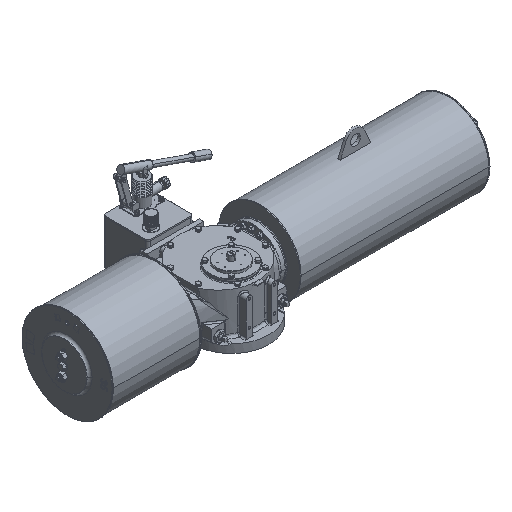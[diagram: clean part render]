
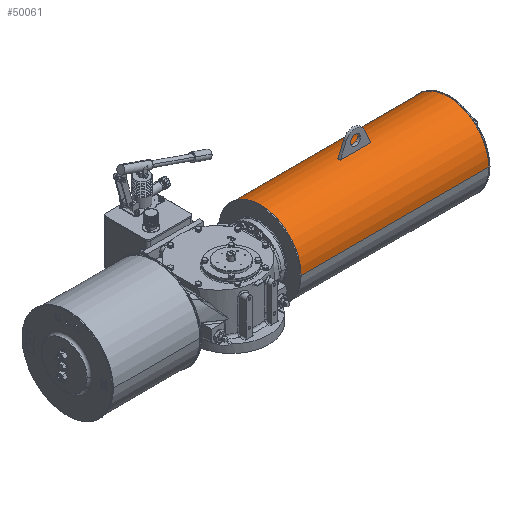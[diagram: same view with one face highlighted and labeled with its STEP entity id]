
A CAD part, isometric view. The second image highlights one B-rep face of the part: STEP entity #50061.
In plain terms, the highlighted cylindrical face has radius 162.5 mm (diameter 325 mm), a partial arc.
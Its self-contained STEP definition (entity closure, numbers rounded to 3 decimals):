
#515 = CARTESIAN_POINT ( 'NONE',  ( 954., 198., 74.5 ) ) ;
#769 = ORIENTED_EDGE ( 'NONE', *, *, #94353, .T. ) ;
#1058 = EDGE_CURVE ( 'NONE', #90639, #19252, #41932, .T. ) ;
#2069 = CARTESIAN_POINT ( 'NONE',  ( 639.5, 35.5, 74.5 ) ) ;
#3094 = EDGE_CURVE ( 'NONE', #50640, #34565, #69077, .T. ) ;
#3404 = AXIS2_PLACEMENT_3D ( 'NONE', #41371, #19302, #71418 ) ;
#4012 = CIRCLE ( 'NONE', #58423, 162.5 ) ;
#6322 = ORIENTED_EDGE ( 'NONE', *, *, #7833, .T. ) ;
#7833 = EDGE_CURVE ( 'NONE', #62151, #16743, #87762, .T. ) ;
#7839 = VERTEX_POINT ( 'NONE', #88245 ) ;
#10258 = EDGE_CURVE ( 'NONE', #59824, #46559, #46613, .T. ) ;
#11075 = DIRECTION ( 'NONE',  ( 0., 1., 0. ) ) ;
#16743 = VERTEX_POINT ( 'NONE', #97563 ) ;
#17167 = ORIENTED_EDGE ( 'NONE', *, *, #1058, .F. ) ;
#17387 = AXIS2_PLACEMENT_3D ( 'NONE', #49637, #26095, #11075 ) ;
#17945 = ORIENTED_EDGE ( 'NONE', *, *, #23870, .T. ) ;
#18646 = DIRECTION ( 'NONE',  ( 0., 1., 0. ) ) ;
#18891 = CARTESIAN_POINT ( 'NONE',  ( 208., 198., 74.5 ) ) ;
#19252 = VERTEX_POINT ( 'NONE', #515 ) ;
#19302 = DIRECTION ( 'NONE',  ( -1., 0., 0. ) ) ;
#20099 = CARTESIAN_POINT ( 'NONE',  ( 208., -127., 74.5 ) ) ;
#21156 = CARTESIAN_POINT ( 'NONE',  ( 519.5, 35.5, 74.5 ) ) ;
#22256 = CARTESIAN_POINT ( 'NONE',  ( 519.5, 35.5, 237. ) ) ;
#22306 = EDGE_CURVE ( 'NONE', #90639, #62151, #91042, .T. ) ;
#22723 = ORIENTED_EDGE ( 'NONE', *, *, #76785, .T. ) ;
#22838 = CARTESIAN_POINT ( 'NONE',  ( 519.5, 40.5, 236.923 ) ) ;
#23472 = DIRECTION ( 'NONE',  ( 1., 0., 0. ) ) ;
#23870 = EDGE_CURVE ( 'NONE', #45073, #59824, #4012, .T. ) ;
#24720 = ORIENTED_EDGE ( 'NONE', *, *, #47454, .F. ) ;
#25074 = EDGE_LOOP ( 'NONE', ( #24720, #17945, #35791, #89507, #40227, #769 ) ) ;
#25333 = CYLINDRICAL_SURFACE ( 'NONE', #63038, 162.5 ) ;
#26095 = DIRECTION ( 'NONE',  ( 1., 0., 0. ) ) ;
#26166 = DIRECTION ( 'NONE',  ( -1., 0., 0. ) ) ;
#32308 = AXIS2_PLACEMENT_3D ( 'NONE', #2069, #63184, #63672 ) ;
#33373 = CARTESIAN_POINT ( 'NONE',  ( 205., -127., 74.5 ) ) ;
#34565 = VERTEX_POINT ( 'NONE', #87651 ) ;
#35791 = ORIENTED_EDGE ( 'NONE', *, *, #10258, .T. ) ;
#40227 = ORIENTED_EDGE ( 'NONE', *, *, #3094, .T. ) ;
#40716 = VECTOR ( 'NONE', #23472, 1000. ) ;
#41371 = CARTESIAN_POINT ( 'NONE',  ( 519.5, 35.5, 74.5 ) ) ;
#41932 = LINE ( 'NONE', #18891, #43208 ) ;
#43208 = VECTOR ( 'NONE', #87522, 1000. ) ;
#43445 = CARTESIAN_POINT ( 'NONE',  ( 208., 30.5, 236.923 ) ) ;
#45049 = CARTESIAN_POINT ( 'NONE',  ( 208., 40.5, 236.923 ) ) ;
#45073 = VERTEX_POINT ( 'NONE', #94369 ) ;
#45171 = DIRECTION ( 'NONE',  ( 0., 1., 0. ) ) ;
#46155 = DIRECTION ( 'NONE',  ( 1., 0., 0. ) ) ;
#46559 = VERTEX_POINT ( 'NONE', #22838 ) ;
#46613 = CIRCLE ( 'NONE', #3404, 162.5 ) ;
#47454 = EDGE_CURVE ( 'NONE', #45073, #7839, #81507, .T. ) ;
#49214 = DIRECTION ( 'NONE',  ( 0., -1., 0. ) ) ;
#49637 = CARTESIAN_POINT ( 'NONE',  ( 205., 35.5, 74.5 ) ) ;
#49680 = DIRECTION ( 'NONE',  ( 1., 0., 0. ) ) ;
#50061 = ADVANCED_FACE ( 'NONE', ( #70895, #63396 ), #25333, .T. ) ;
#50640 = VERTEX_POINT ( 'NONE', #80534 ) ;
#51301 = AXIS2_PLACEMENT_3D ( 'NONE', #89608, #56704, #49214 ) ;
#56209 = CARTESIAN_POINT ( 'NONE',  ( 954., 35.5, 74.5 ) ) ;
#56224 = CIRCLE ( 'NONE', #94641, 162.5 ) ;
#56704 = DIRECTION ( 'NONE',  ( 1., 0., 0. ) ) ;
#57134 = EDGE_LOOP ( 'NONE', ( #84729, #6322, #22723, #17167 ) ) ;
#58423 = AXIS2_PLACEMENT_3D ( 'NONE', #21156, #73764, #74266 ) ;
#59824 = VERTEX_POINT ( 'NONE', #22256 ) ;
#61102 = VECTOR ( 'NONE', #49680, 1000. ) ;
#61542 = LINE ( 'NONE', #45049, #40716 ) ;
#61714 = VECTOR ( 'NONE', #97524, 1000. ) ;
#62151 = VERTEX_POINT ( 'NONE', #33373 ) ;
#63038 = AXIS2_PLACEMENT_3D ( 'NONE', #84207, #46155, #45171 ) ;
#63184 = DIRECTION ( 'NONE',  ( 1., 0., 0. ) ) ;
#63396 = FACE_OUTER_BOUND ( 'NONE', #57134, .T. ) ;
#63672 = DIRECTION ( 'NONE',  ( 0., -1., 0. ) ) ;
#64115 = CIRCLE ( 'NONE', #51301, 162.5 ) ;
#69077 = CIRCLE ( 'NONE', #32308, 162.5 ) ;
#70895 = FACE_BOUND ( 'NONE', #25074, .T. ) ;
#71418 = DIRECTION ( 'NONE',  ( 0., 1., 0. ) ) ;
#73764 = DIRECTION ( 'NONE',  ( -1., 0., 0. ) ) ;
#74266 = DIRECTION ( 'NONE',  ( 0., 1., 0. ) ) ;
#76785 = EDGE_CURVE ( 'NONE', #16743, #19252, #56224, .T. ) ;
#80534 = CARTESIAN_POINT ( 'NONE',  ( 639.5, 40.5, 236.923 ) ) ;
#81507 = LINE ( 'NONE', #43445, #61714 ) ;
#81619 = CARTESIAN_POINT ( 'NONE',  ( 205., 198., 74.5 ) ) ;
#84207 = CARTESIAN_POINT ( 'NONE',  ( 208., 35.5, 74.5 ) ) ;
#84729 = ORIENTED_EDGE ( 'NONE', *, *, #22306, .T. ) ;
#87522 = DIRECTION ( 'NONE',  ( 1., 0., 0. ) ) ;
#87651 = CARTESIAN_POINT ( 'NONE',  ( 639.5, 35.5, 237. ) ) ;
#87762 = LINE ( 'NONE', #20099, #61102 ) ;
#88245 = CARTESIAN_POINT ( 'NONE',  ( 639.5, 30.5, 236.923 ) ) ;
#89507 = ORIENTED_EDGE ( 'NONE', *, *, #98492, .T. ) ;
#89608 = CARTESIAN_POINT ( 'NONE',  ( 639.5, 35.5, 74.5 ) ) ;
#90639 = VERTEX_POINT ( 'NONE', #81619 ) ;
#91042 = CIRCLE ( 'NONE', #17387, 162.5 ) ;
#94353 = EDGE_CURVE ( 'NONE', #34565, #7839, #64115, .T. ) ;
#94369 = CARTESIAN_POINT ( 'NONE',  ( 519.5, 30.5, 236.923 ) ) ;
#94641 = AXIS2_PLACEMENT_3D ( 'NONE', #56209, #26166, #18646 ) ;
#97524 = DIRECTION ( 'NONE',  ( 1., 0., 0. ) ) ;
#97563 = CARTESIAN_POINT ( 'NONE',  ( 954., -127., 74.5 ) ) ;
#98492 = EDGE_CURVE ( 'NONE', #46559, #50640, #61542, .T. ) ;
